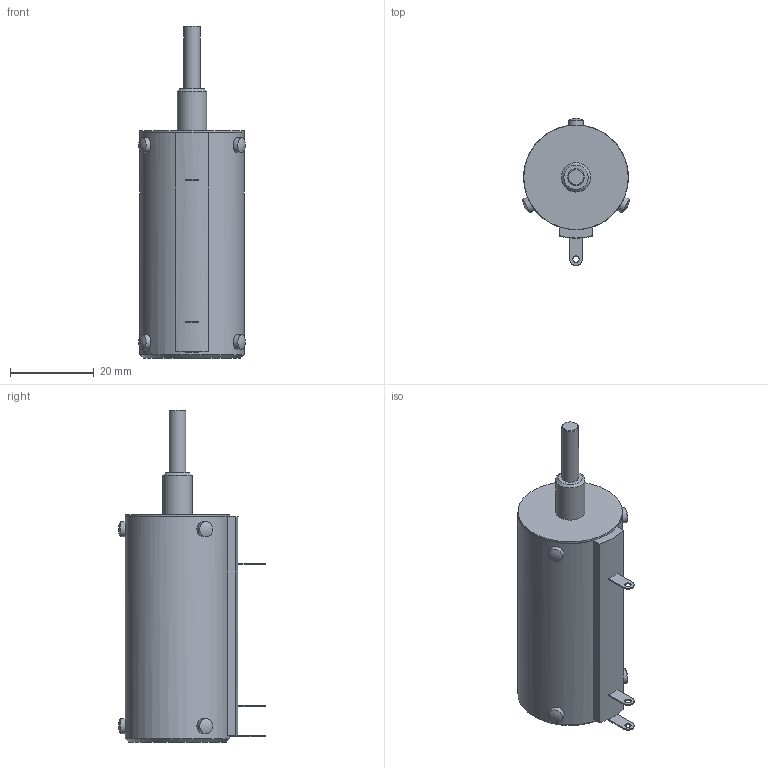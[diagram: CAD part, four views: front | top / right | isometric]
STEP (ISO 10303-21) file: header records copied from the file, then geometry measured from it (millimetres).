
FILE_DESCRIPTION (( 'STEP AP214' ), '1' );
FILE_NAME ('AL25.STEP', '2019-05-02T07:50:59', ( '' ), ( '' ), 'SwSTEP 2.0', 'SolidWorks 2017', '' );
FILE_SCHEMA (( 'AUTOMOTIVE_DESIGN' ));
Length unit declared in the file: millimetre
Products named in the file (1): AL25
Bounding box: 25.48 x 35.1 x 79.3 mm (x, y, z)
Volume: 28151.3 mm3; surface area: 6061.4 mm2
Topology: 1 solids, 1 shells, 50 faces, 111 edges, 74 vertices
Faces by surface type: plane 21, cylinder 20, sphere 6, cone 3
Full cylindrical faces by diameter (mm): 1.5 x3, 3.6 x6, 4 x1, 7 x1, 24.95 x1, 25 x1
Entity records: 1619 total; most frequent: CARTESIAN_POINT 526, DIRECTION 231, ORIENTED_EDGE 178, AXIS2_PLACEMENT_3D 97, EDGE_CURVE 89, EDGE_LOOP 83, VERTEX_POINT 68, FACE_OUTER_BOUND 63
